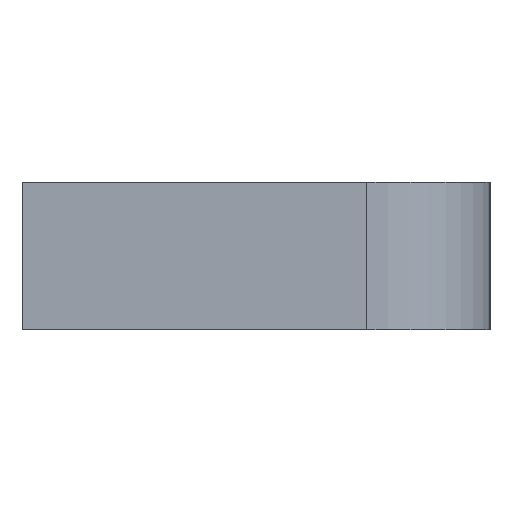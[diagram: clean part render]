
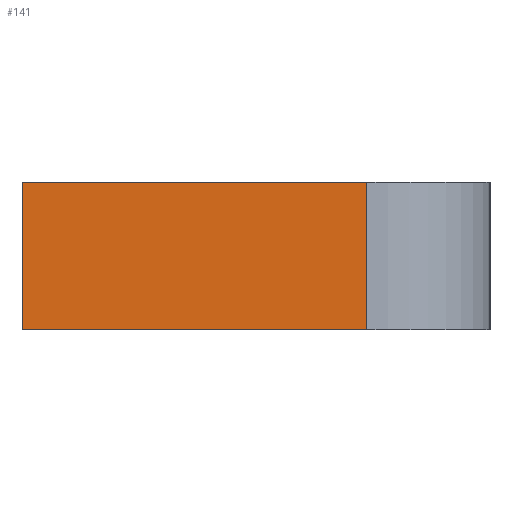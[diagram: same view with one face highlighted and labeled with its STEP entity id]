
A CAD part, left-side view. The second image highlights one B-rep face of the part: STEP entity #141.
In plain terms, the highlighted planar face has unit normal (-1, 0, 0).
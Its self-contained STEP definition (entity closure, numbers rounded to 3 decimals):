
#141 = ADVANCED_FACE( '', ( #362 ), #363, .T. );
#151 = EDGE_CURVE( '', #245, #263, #374, .T. );
#155 = VERTEX_POINT( '', #378 );
#193 = EDGE_CURVE( '', #273, #155, #419, .T. );
#201 = EDGE_CURVE( '', #155, #263, #428, .T. );
#235 = EDGE_CURVE( '', #273, #245, #463, .T. );
#245 = VERTEX_POINT( '', #475 );
#263 = VERTEX_POINT( '', #497 );
#273 = VERTEX_POINT( '', #508 );
#362 = FACE_OUTER_BOUND( '', #597, .T. );
#363 = PLANE( '', #598 );
#374 = LINE( '', #611, #612 );
#378 = CARTESIAN_POINT( '', ( -6., -28., 6. ) );
#419 = LINE( '', #673, #674 );
#428 = LINE( '', #687, #688 );
#463 = LINE( '', #743, #744 );
#475 = CARTESIAN_POINT( '', ( -6., 0., -6. ) );
#497 = CARTESIAN_POINT( '', ( -6., -28., -6. ) );
#508 = CARTESIAN_POINT( '', ( -6., 0., 6. ) );
#597 = EDGE_LOOP( '', ( #912, #913, #914, #915 ) );
#598 = AXIS2_PLACEMENT_3D( '', #916, #917, #918 );
#611 = CARTESIAN_POINT( '', ( -6., 0., -6. ) );
#612 = VECTOR( '', #930, 1. );
#673 = CARTESIAN_POINT( '', ( -6., 0., 6. ) );
#674 = VECTOR( '', #970, 1. );
#687 = CARTESIAN_POINT( '', ( -6., -28., 6. ) );
#688 = VECTOR( '', #983, 1. );
#743 = CARTESIAN_POINT( '', ( -6., 0., 6. ) );
#744 = VECTOR( '', #1014, 1. );
#912 = ORIENTED_EDGE( '', *, *, #151, .T. );
#913 = ORIENTED_EDGE( '', *, *, #201, .F. );
#914 = ORIENTED_EDGE( '', *, *, #193, .F. );
#915 = ORIENTED_EDGE( '', *, *, #235, .T. );
#916 = CARTESIAN_POINT( '', ( -6., 0., 6. ) );
#917 = DIRECTION( '', ( -1., 0., 0. ) );
#918 = DIRECTION( '', ( 0., 1., 0. ) );
#930 = DIRECTION( '', ( 0., -1., 0. ) );
#970 = DIRECTION( '', ( 0., -1., 0. ) );
#983 = DIRECTION( '', ( 0., 0., -1. ) );
#1014 = DIRECTION( '', ( 0., 0., -1. ) );
